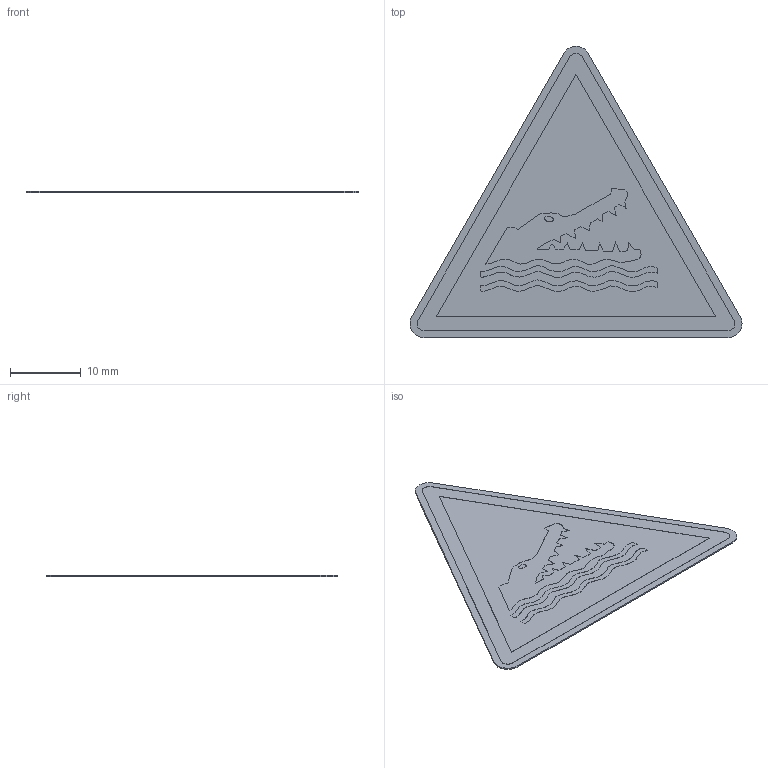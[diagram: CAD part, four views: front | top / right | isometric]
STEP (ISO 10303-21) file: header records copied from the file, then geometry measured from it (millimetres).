
FILE_DESCRIPTION (( 'STEP AP214' ), '1' );
FILE_NAME ('W067_Warnung vor Krokodilen, Alligatoren oder Kaimanen.STEP', '2022-03-05T05:37:56', ( '' ), ( '' ), 'SwSTEP 2.0', 'SolidWorks 2021', '' );
FILE_SCHEMA (( 'AUTOMOTIVE_DESIGN' ));
Length unit declared in the file: millimetre
Products named in the file (1): W067_Warnung vor Krokodilen, Alligatoren oder Kaimanen
Bounding box: 47.07 x 41.3 x 0.22 mm (x, y, z)
Volume: 222.7 mm3; surface area: 2186.2 mm2
Topology: 1 solids, 1 shells, 345 faces, 1011 edges, 674 vertices
Faces by surface type: plane 322, cylinder 23
Entity records: 14959 total; most frequent: CARTESIAN_POINT 2031, ORIENTED_EDGE 2022, DIRECTION 1749, EDGE_CURVE 1011, LINE 965, VECTOR 965, VERTEX_POINT 674, AXIS2_PLACEMENT_3D 392
